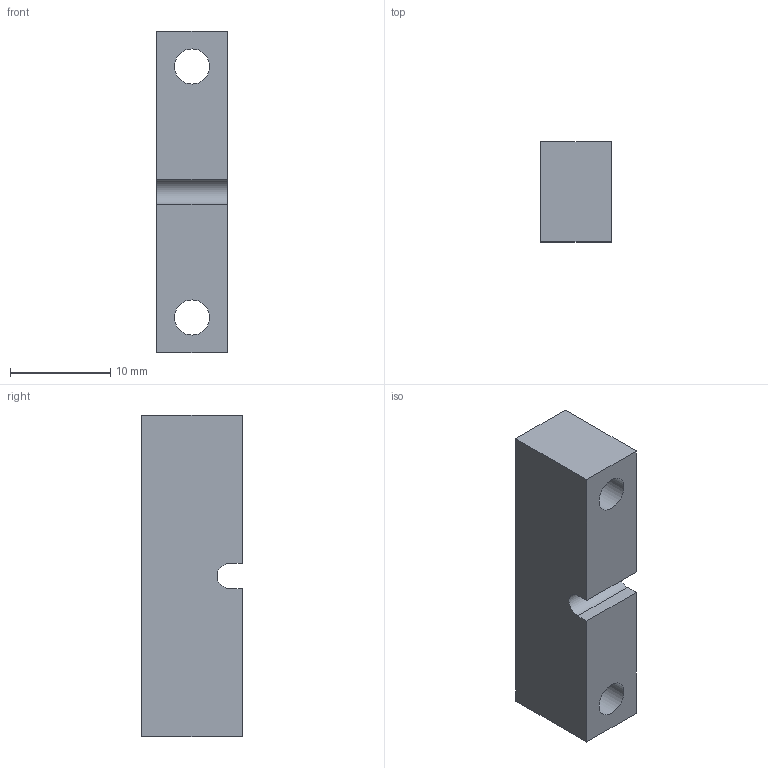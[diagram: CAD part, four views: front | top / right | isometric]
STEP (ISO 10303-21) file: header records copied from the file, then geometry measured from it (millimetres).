
FILE_DESCRIPTION(/* description */ (''),/* implementation_level */ '2;1');
FILE_NAME(/* name */ 'G:/NAS/EE/Projekte/Taster Selbsthaltung Xbox Adaptive Controller/Gehäuse/step export/Zugentlastung 1 v11.step',/* time_stamp */ '2021-01-21T17:19:05+01:00',/* author */ (''),/* organization */ (''),/* preprocessor_version */ 'ST-DEVELOPER v18.1',/* originating_system */ 'Autodesk Translation Framework v9.7.1.1290',/* authorisation */ '');
FILE_SCHEMA (('AUTOMOTIVE_DESIGN { 1 0 10303 214 3 1 1 }'));
Length unit declared in the file: millimetre
Products named in the file (1): Zugentlastung 1
Bounding box: 7 x 10 x 32 mm (x, y, z)
Volume: 2008.5 mm3; surface area: 1425.8 mm2
Topology: 1 solids, 1 shells, 12 faces, 30 edges, 20 vertices
Faces by surface type: plane 9, cylinder 3
Full cylindrical faces by diameter (mm): 3.5 x2
Entity records: 401 total; most frequent: CARTESIAN_POINT 63, DIRECTION 62, ORIENTED_EDGE 60, EDGE_CURVE 30, LINE 24, VECTOR 24, VERTEX_POINT 20, AXIS2_PLACEMENT_3D 19
